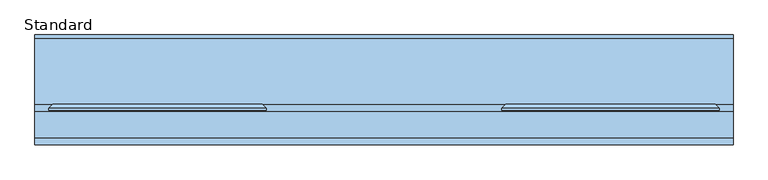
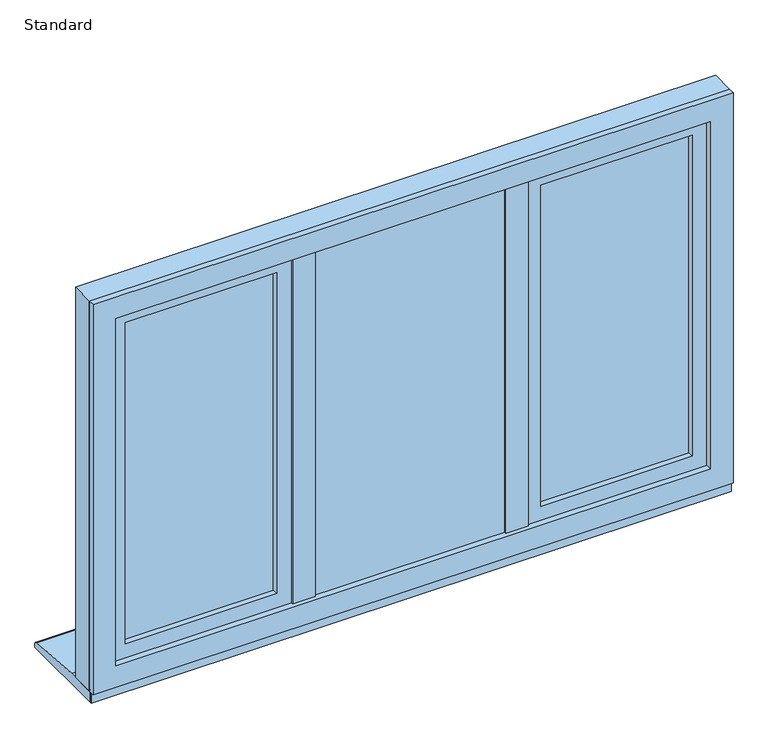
"""IFC4 building model written with IfcOpenShell, lengths in millimetres: window geometry, SMARTS_Alitherm600 : Standard."""

from ifc_helpers import new_model, si_unit, point, frame, frame_2d, origin, place, context, project, spatial, polyline, circle_curve, trimmed, segment, composite_curve, outline, extrude, faceted_brep, source, transform, mapped, element, save


def standard_a03a8379(model_context):
    return source(origin(), model_context, "Body", "SolidModel", [
        extrude(outline(polyline([(-256.0666667, 102.8298432), (-237.2666667, 102.8298432), (-237.2666667, 47.2458572), (-256.0666667, 47.2458572), (-256.0666667, 102.8298432)])), frame((0.0, 0.0, 670.8979117), z_axis=(0.0, 0.0, 1.0), x_axis=(1.0, 0.0, 0.0)), (0.0, 0.0, 1.0), 883.2041766),
        extrude(outline(polyline([(-272.568755, 47.2458572), (-220.7645784, 47.2458572), (-220.7645784, 43.2798432), (-272.568755, 43.2798432), (-272.568755, 47.2458572)])), frame((0.0, 0.0, 687.4), z_axis=(0.0, 0.0, 1.0), x_axis=(1.0, 0.0, 0.0)), (0.0, 0.0, 1.0), 850.2),
        extrude(outline(polyline([(237.2666667, 102.8298432), (256.0666667, 102.8298432), (256.0666667, 47.2458572), (237.2666667, 47.2458572), (237.2666667, 102.8298432)])), frame((0.0, 0.0, 670.8979117), z_axis=(0.0, 0.0, 1.0), x_axis=(1.0, 0.0, 0.0)), (0.0, 0.0, 1.0), 883.2041766),
        extrude(outline(polyline([(220.7645784, 47.2458572), (272.568755, 47.2458572), (272.568755, 43.2798432), (220.7645784, 43.2798432), (220.7645784, 47.2458572)])), frame((0.0, 0.0, 687.4), z_axis=(0.0, 0.0, 1.0), x_axis=(1.0, 0.0, 0.0)), (0.0, 0.0, 1.0), 850.2),
        extrude(outline(polyline([(1516.6, -666.6), (708.4, -666.6), (708.4, -293.6666667), (1516.6, -293.6666667), (1516.6, -666.6)]), holes=[polyline([(1506.6, -303.6666667), (718.4, -303.6666667), (718.4, -656.6), (1506.6, -656.6), (1506.6, -303.6666667)])]), frame((0.0, 72.3211351, 0.0), z_axis=(0.0, 1.0, 0.0), x_axis=(0.0, 0.0, 1.0)), (0.0, 0.0, 1.0), 16.0),
        extrude(outline(polyline([(-666.6, 92.3211351), (-293.6666667, 92.3211351), (-293.6666667, 88.3211351), (-666.6, 88.3211351), (-666.6, 92.3211351)])), frame((0.0, 0.0, 708.4), z_axis=(0.0, 0.0, 1.0), x_axis=(1.0, 0.0, 0.0)), (0.0, 0.0, 1.0), 808.2),
        extrude(outline(polyline([(-666.6, 72.3211351), (-293.6666667, 72.3211351), (-293.6666667, 68.3211351), (-666.6, 68.3211351), (-666.6, 72.3211351)])), frame((0.0, 0.0, 708.4), z_axis=(0.0, 0.0, 1.0), x_axis=(1.0, 0.0, 0.0)), (0.0, 0.0, 1.0), 808.2),
        faceted_brep([(-293.344552, 118.8818325, 1516.9221147), (-305.5266427, 97.7818325, 1504.740024), (-654.740024, 97.7818325, 1504.740024), (-666.9221147, 118.8818325, 1516.9221147), (-288.6606173, 97.7818325, 1521.6060494), (-288.6606173, 118.8818325, 1521.6060494), (-671.6060494, 118.8818325, 1521.6060494), (-671.6060494, 97.7818325, 1521.6060494), (-654.740024, 97.7818325, 720.259976), (-666.9221147, 118.8818325, 708.0778853), (-671.6060494, 118.8818325, 703.3939506), (-671.6060494, 97.7818325, 703.3939506), (-305.5266427, 97.7818325, 720.259976), (-293.344552, 118.8818325, 708.0778853), (-288.6606173, 118.8818325, 703.3939506), (-288.6606173, 97.7818325, 703.3939506)], [[[0, 1, 2, 3]], [[4, 5, 6, 7]], [[3, 2, 8, 9]], [[7, 6, 10, 11]], [[9, 8, 12, 13]], [[11, 10, 14, 15]], [[13, 12, 1, 0]], [[5, 14, 10, 6], [3, 9, 13, 0]], [[15, 14, 5, 4]], [[7, 11, 15, 4], [1, 12, 8, 2]]]),
        extrude(outline(polyline([(681.552908, -693.447092), (681.552908, -266.8195747), (1543.447092, -266.8195747), (1543.447092, -693.447092), (681.552908, -693.447092)]), holes=[polyline([(1505.1, -655.1), (1505.1, -305.1666667), (719.9, -305.1666667), (719.9, -655.1), (1505.1, -655.1)])]), frame((0.0, 50.2798432, 0.0), z_axis=(0.0, 1.0, 0.0), x_axis=(0.0, 0.0, 1.0)), (0.0, 0.0, 1.0), 13.0853156),
        faceted_brep([(-671.6060494, 118.8818325, 1521.6060494), (-671.6060494, 63.3651588, 1521.6060494), (-671.6060494, 63.3651588, 703.3939506), (-671.6060494, 118.8818325, 703.3939506), (-288.6606173, 63.3651588, 703.3939506), (-288.6606173, 118.8818325, 703.3939506), (-288.6606173, 63.3651588, 1521.6060494), (-288.6606173, 118.8818325, 1521.6060494), (-710.3358988, 106.2818325, 1560.3358988), (-710.3358988, 110.3519831, 1560.3358988), (-710.3358988, 110.3519831, 664.6641012), (-710.3358988, 106.2818325, 664.6641012), (-249.9307679, 110.3519831, 664.6641012), (-249.9307679, 106.2818325, 664.6641012), (-249.9307679, 110.3519831, 1560.3358988), (-249.9307679, 106.2818325, 1560.3358988), (-693.7467657, 106.2818325, 1543.7467657), (-266.5199009, 106.2818325, 1543.7467657), (-266.5199009, 106.2818325, 681.2532343), (-693.7467657, 106.2818325, 681.2532343), (-701.8060494, 118.8818325, 1551.8060494), (-258.4606173, 118.8818325, 1551.8060494), (-258.4606173, 118.8818325, 673.1939506), (-701.8060494, 118.8818325, 673.1939506), (-693.7467657, 63.3651588, 1543.7467657), (-693.7467657, 63.3651588, 681.2532343), (-266.5199009, 63.3651588, 681.2532343), (-266.5199009, 63.3651588, 1543.7467657)], [[[0, 1, 2, 3]], [[3, 2, 4, 5]], [[5, 4, 6, 7]], [[7, 6, 1, 0]], [[8, 9, 10, 11]], [[11, 10, 12, 13]], [[13, 12, 14, 15]], [[11, 13, 15, 8], [16, 17, 18, 19]], [[15, 14, 9, 8]], [[20, 21, 22, 23], [3, 5, 7, 0]], [[24, 16, 19, 25]], [[25, 19, 18, 26]], [[26, 18, 17, 27]], [[25, 26, 27, 24], [1, 6, 4, 2]], [[27, 17, 16, 24]], [[9, 20, 23, 10]], [[10, 23, 22, 12]], [[12, 22, 21, 14]], [[14, 21, 20, 9]]]),
        extrude(outline(polyline([(-235.6666667, 77.7798432), (235.6666667, 77.7798432), (235.6666667, 73.7798432), (-235.6666667, 73.7798432), (-235.6666667, 77.7798432)])), frame((0.0, 0.0, 672.4), z_axis=(0.0, 0.0, 1.0), x_axis=(1.0, 0.0, 0.0)), (0.0, 0.0, 1.0), 880.2),
        extrude(outline(polyline([(-235.6666667, 57.7798432), (235.6666667, 57.7798432), (235.6666667, 53.7798432), (-235.6666667, 53.7798432), (-235.6666667, 57.7798432)])), frame((0.0, 0.0, 672.4), z_axis=(0.0, 0.0, 1.0), x_axis=(1.0, 0.0, 0.0)), (0.0, 0.0, 1.0), 880.2),
        extrude(outline(polyline([(1552.6, -235.6666667), (672.4, -235.6666667), (672.4, 235.6666667), (1552.6, 235.6666667), (1552.6, -235.6666667)]), holes=[polyline([(1542.6, 225.6666667), (682.4, 225.6666667), (682.4, -225.6666667), (1542.6, -225.6666667), (1542.6, 225.6666667)])]), frame((0.0, 57.7798432, 0.0), z_axis=(0.0, 1.0, 0.0), x_axis=(0.0, 0.0, 1.0)), (0.0, 0.0, 1.0), 16.0),
        faceted_brep([(-232.4827319, 102.7798432, 1549.4160653), (-220.3006413, 81.6798432, 1537.2339746), (-220.3006413, 81.6798432, 687.7660254), (-232.4827319, 102.7798432, 675.5839347), (220.3006413, 81.6798432, 687.7660254), (232.4827319, 102.7798432, 675.5839347), (220.3006413, 81.6798432, 1537.2339746), (232.4827319, 102.7798432, 1549.4160653), (237.1666667, 81.6798432, 1554.1), (237.1666667, 102.7798432, 1554.1), (-237.1666667, 102.7798432, 1554.1), (-237.1666667, 81.6798432, 1554.1), (-237.1666667, 102.7798432, 670.9), (-237.1666667, 81.6798432, 670.9), (237.1666667, 102.7798432, 670.9), (237.1666667, 81.6798432, 670.9)], [[[0, 1, 2, 3]], [[3, 2, 4, 5]], [[5, 4, 6, 7]], [[7, 6, 1, 0]], [[8, 9, 10, 11]], [[11, 10, 12, 13]], [[13, 12, 14, 15]], [[9, 14, 12, 10], [0, 3, 5, 7]], [[15, 14, 9, 8]], [[11, 13, 15, 8], [6, 4, 2, 1]]]),
        extrude(outline(polyline([(1590.0, 740.0), (1590.0, -740.0), (635.0, -740.0), (635.0, 740.0), (1590.0, 740.0)]), holes=[polyline([(670.85, 704.15), (670.85, -704.15), (1554.15, -704.15), (1554.15, 704.15), (670.85, 704.15)])]), frame((0.0, 47.2798427, 0.0), z_axis=(0.0, 1.0, 0.0), x_axis=(0.0, 0.0, 1.0)), (0.0, 0.0, 1.0), 55.5500006),
        extrude(outline(polyline([(1590.0, 740.0), (1590.0, -740.0), (635.0, -740.0), (635.0, 740.0), (1590.0, 740.0)]), holes=[polyline([(687.35, 687.65), (687.35, -687.65), (1537.65, -687.65), (1537.65, 687.65), (687.35, 687.65)])]), frame((0.0, 32.8298432, 0.0), z_axis=(0.0, 1.0, 0.0), x_axis=(0.0, 0.0, 1.0)), (0.0, 0.0, 1.0), 14.4499994),
        extrude(outline(polyline([(1516.6, 293.6666667), (708.4, 293.6666667), (708.4, 666.6), (1516.6, 666.6), (1516.6, 293.6666667)]), holes=[polyline([(1506.6, 656.6), (718.4, 656.6), (718.4, 303.6666667), (1506.6, 303.6666667), (1506.6, 656.6)])]), frame((0.0, 72.3211351, 0.0), z_axis=(0.0, 1.0, 0.0), x_axis=(0.0, 0.0, 1.0)), (0.0, 0.0, 1.0), 16.0),
        extrude(outline(polyline([(293.6666667, 92.3211351), (666.6, 92.3211351), (666.6, 88.3211351), (293.6666667, 88.3211351), (293.6666667, 92.3211351)])), frame((0.0, 0.0, 708.4), z_axis=(0.0, 0.0, 1.0), x_axis=(1.0, 0.0, 0.0)), (0.0, 0.0, 1.0), 808.2),
        extrude(outline(polyline([(293.6666667, 72.3211351), (666.6, 72.3211351), (666.6, 68.3211351), (293.6666667, 68.3211351), (293.6666667, 72.3211351)])), frame((0.0, 0.0, 708.4), z_axis=(0.0, 0.0, 1.0), x_axis=(1.0, 0.0, 0.0)), (0.0, 0.0, 1.0), 808.2),
        faceted_brep([(666.9221147, 118.8818325, 1516.9221147), (654.740024, 97.7818325, 1504.740024), (305.5266427, 97.7818325, 1504.740024), (293.344552, 118.8818325, 1516.9221147), (671.6060494, 97.7818325, 1521.6060494), (671.6060494, 118.8818325, 1521.6060494), (288.6606173, 118.8818325, 1521.6060494), (288.6606173, 97.7818325, 1521.6060494), (305.5266427, 97.7818325, 720.259976), (293.344552, 118.8818325, 708.0778853), (288.6606173, 118.8818325, 703.3939506), (288.6606173, 97.7818325, 703.3939506), (654.740024, 97.7818325, 720.259976), (666.9221147, 118.8818325, 708.0778853), (671.6060494, 118.8818325, 703.3939506), (671.6060494, 97.7818325, 703.3939506)], [[[0, 1, 2, 3]], [[4, 5, 6, 7]], [[3, 2, 8, 9]], [[7, 6, 10, 11]], [[9, 8, 12, 13]], [[11, 10, 14, 15]], [[13, 12, 1, 0]], [[5, 14, 10, 6], [3, 9, 13, 0]], [[15, 14, 5, 4]], [[7, 11, 15, 4], [1, 12, 8, 2]]]),
        extrude(outline(polyline([(681.552908, 266.8195747), (681.552908, 693.447092), (1543.447092, 693.447092), (1543.447092, 266.8195747), (681.552908, 266.8195747)]), holes=[polyline([(1505.1, 305.1666667), (1505.1, 655.1), (719.9, 655.1), (719.9, 305.1666667), (1505.1, 305.1666667)])]), frame((0.0, 50.2798432, 0.0), z_axis=(0.0, 1.0, 0.0), x_axis=(0.0, 0.0, 1.0)), (0.0, 0.0, 1.0), 13.0853156),
        faceted_brep([(288.6606173, 118.8818325, 1521.6060494), (288.6606173, 63.3651588, 1521.6060494), (288.6606173, 63.3651588, 703.3939506), (288.6606173, 118.8818325, 703.3939506), (671.6060494, 63.3651588, 703.3939506), (671.6060494, 118.8818325, 703.3939506), (671.6060494, 63.3651588, 1521.6060494), (671.6060494, 118.8818325, 1521.6060494), (249.9307679, 106.2818325, 1560.3358988), (249.9307679, 110.3519831, 1560.3358988), (249.9307679, 110.3519831, 664.6641012), (249.9307679, 106.2818325, 664.6641012), (710.3358988, 110.3519831, 664.6641012), (710.3358988, 106.2818325, 664.6641012), (710.3358988, 110.3519831, 1560.3358988), (710.3358988, 106.2818325, 1560.3358988), (266.5199009, 106.2818325, 1543.7467657), (693.7467657, 106.2818325, 1543.7467657), (693.7467657, 106.2818325, 681.2532343), (266.5199009, 106.2818325, 681.2532343), (258.4606173, 118.8818325, 1551.8060494), (701.8060494, 118.8818325, 1551.8060494), (701.8060494, 118.8818325, 673.1939506), (258.4606173, 118.8818325, 673.1939506), (266.5199009, 63.3651588, 1543.7467657), (266.5199009, 63.3651588, 681.2532343), (693.7467657, 63.3651588, 681.2532343), (693.7467657, 63.3651588, 1543.7467657)], [[[0, 1, 2, 3]], [[3, 2, 4, 5]], [[5, 4, 6, 7]], [[7, 6, 1, 0]], [[8, 9, 10, 11]], [[11, 10, 12, 13]], [[13, 12, 14, 15]], [[11, 13, 15, 8], [16, 17, 18, 19]], [[15, 14, 9, 8]], [[20, 21, 22, 23], [3, 5, 7, 0]], [[24, 16, 19, 25]], [[25, 19, 18, 26]], [[26, 18, 17, 27]], [[25, 26, 27, 24], [1, 6, 4, 2]], [[27, 17, 16, 24]], [[9, 20, 23, 10]], [[10, 23, 22, 12]], [[12, 22, 21, 14]], [[14, 21, 20, 9]]]),
        extrude(outline(polyline([(740.0, 43.2798432), (740.0, 40.7798432), (-740.0, 40.7798432), (-740.0, 43.2798432), (740.0, 43.2798432)])), frame((0.0, 0.0, 610.0), z_axis=(0.0, 0.0, 1.0), x_axis=(1.0, 0.0, 0.0)), (0.0, 0.0, 1.0), 31.0),
        extrude(outline(composite_curve([segment(polyline([(265.7798432, 610.0), (43.2798432, 610.0), (43.2798432, 635.0), (118.7798432, 635.0), (258.4770891, 625.9276664)]), True, "CONTINUOUS"), segment(trimmed(circle_curve(frame_2d((257.7798432, 617.9581088)), 8.0), [point((258.4770891, 625.9276664))], [point((265.7798432, 617.9581088))], False, "CARTESIAN"), True, "CONTINUOUS"), segment(polyline([(265.7798432, 617.9581088), (265.7798432, 610.0)]), True, "CONTINUOUS")], self_intersect=False)), frame((-740.0, 0.0, 0.0), z_axis=(1.0, 0.0, 0.0), x_axis=(0.0, 1.0, 0.0)), (0.0, 0.0, 1.0), 1480.0),
    ])


if __name__ == "__main__":
    model = new_model("IFC4")
    model_context = context("Model", 3, world=origin())
    ifc_project = project(units=[si_unit("LENGTHUNIT", "METRE", prefix="MILLI")], contexts=[model_context])
    site = spatial("IfcSite", under=ifc_project)
    building = spatial("IfcBuilding", under=site)
    placement = place(None, origin())
    standard_shape = standard_a03a8379(model_context)
    element("IfcWindow", 1, ObjectType="SMARTS_Alitherm600 : Standard", at=placement, inside=building, context=model_context, shape_type="MappedRepresentation", body=[
        mapped(standard_shape, transform((0.0, 0.0, 0.0), x_axis=(1.0, 0.0, 0.0), y_axis=(0.0, 1.0, 0.0), z_axis=(0.0, 0.0, 1.0))),
    ])
    save(model, "model.ifc")
